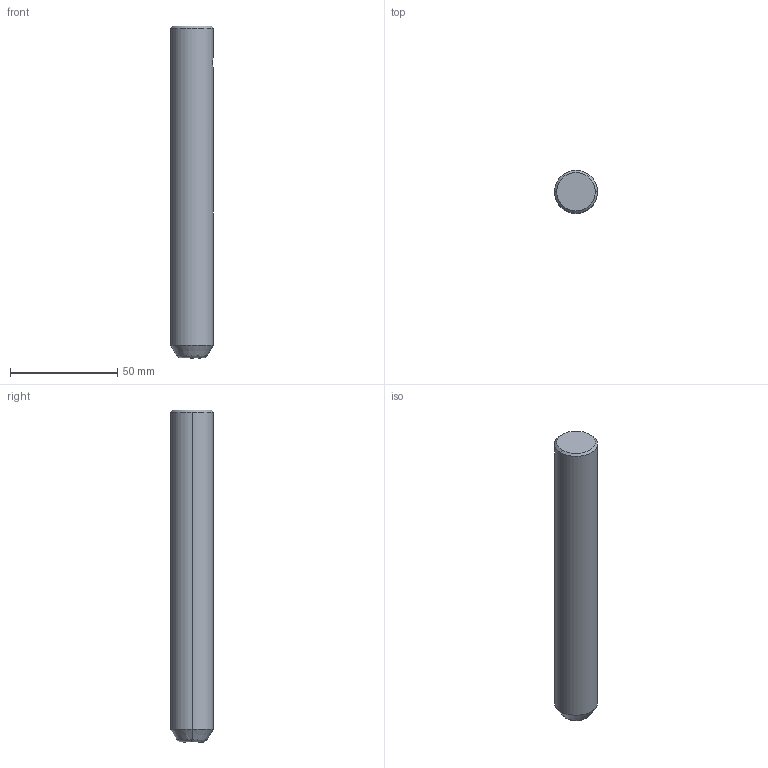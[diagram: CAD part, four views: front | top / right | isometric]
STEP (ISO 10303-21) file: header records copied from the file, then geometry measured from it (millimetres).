
FILE_DESCRIPTION (( 'STEP AP203' ), '1' );
FILE_NAME ('CP20125.STEP', '2023-12-08T21:22:52', ( '' ), ( '' ), 'SwSTEP 2.0', 'SolidWorks 2017', '' );
FILE_SCHEMA (( 'CONFIG_CONTROL_DESIGN' ));
Length unit declared in the file: millimetre
Products named in the file (1): CP20125
Bounding box: 20 x 20 x 155 mm (x, y, z)
Volume: 47888.2 mm3; surface area: 10240.6 mm2
Topology: 1 solids, 1 shells, 14 faces, 35 edges, 21 vertices
Faces by surface type: cone 6, cylinder 4, bspline 2, plane 2
Entity records: 566 total; most frequent: CARTESIAN_POINT 173, DIRECTION 69, ORIENTED_EDGE 66, EDGE_CURVE 33, AXIS2_PLACEMENT_3D 29, VERTEX_POINT 21, CIRCLE 16, FACE_OUTER_BOUND 14
